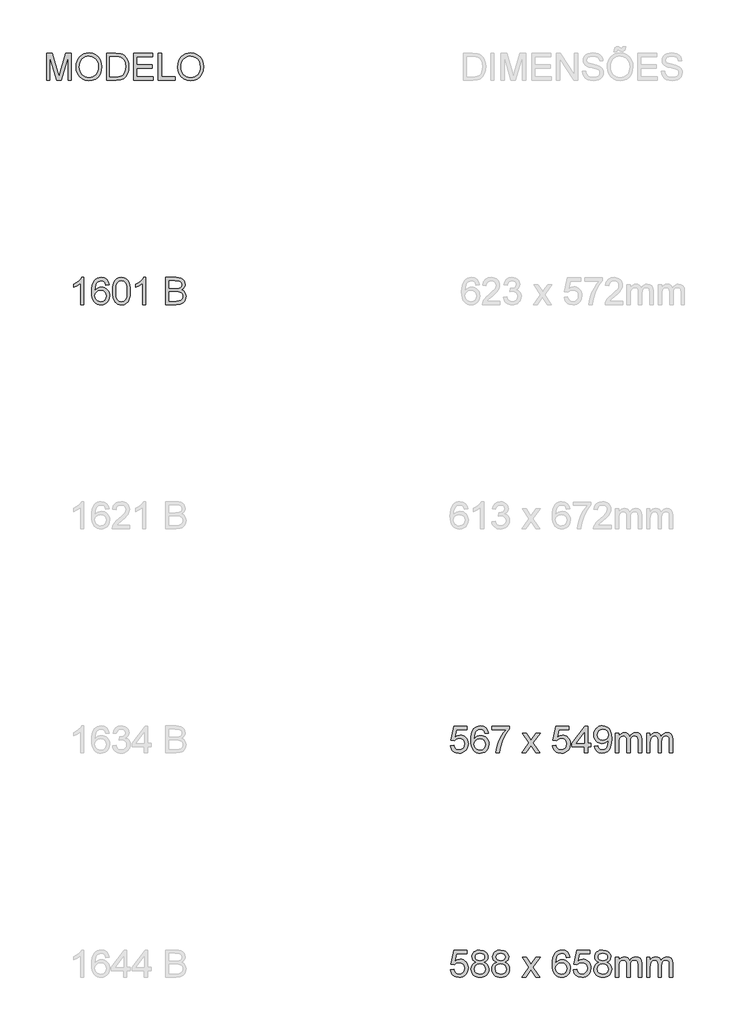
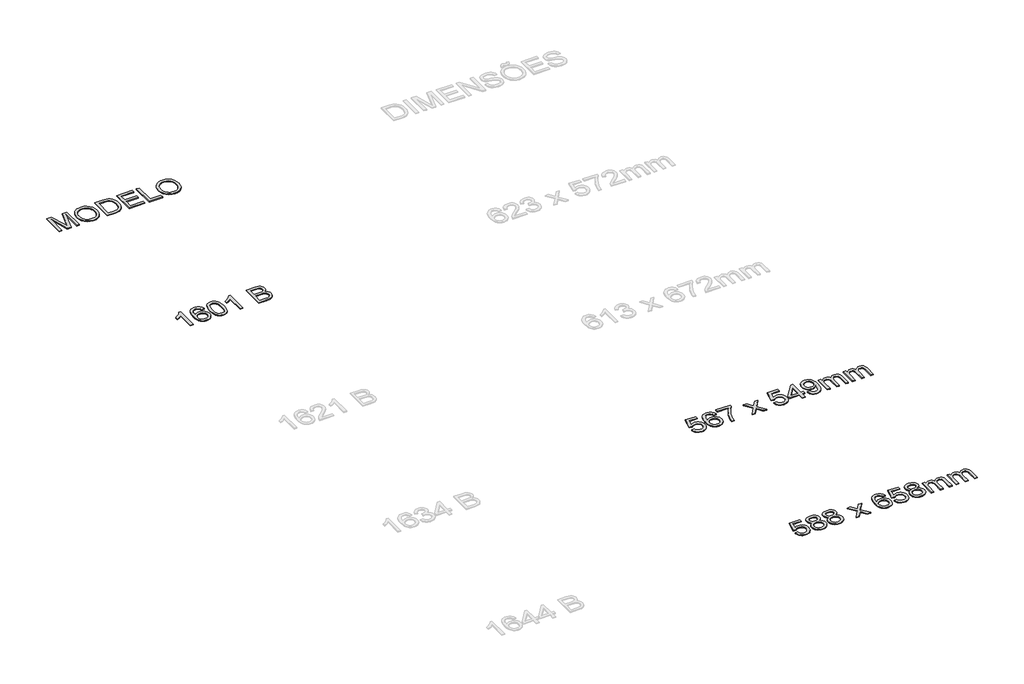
# One storey, part 34 of 39: 4 proxies.
"""IFC4 building model written with IfcOpenShell, lengths in millimetres."""

import ifcopenshell
import ifcopenshell.guid

model = None  # the IFC model being written
_history = None  # IfcOwnerHistory: only IFC2X3 demands one
_inside = {}  # id of a spatial element -> (the spatial element, [elements in it])
_under = {}  # id of a project, library or spatial element -> (it, [spatial elements below it])
_declared = {}  # id of a project -> (the project, [libraries it declares])
_typed = {}  # id of a type object -> (the type object, [elements of that type])
_made_of = {}  # id of a material, layer set ... -> (it, [elements and type objects made of it])


def new_model(schema):
    """Start an empty IFC model of exactly this schema.

    Asked for "IFC4X3", IfcOpenShell would pick the latest addendum, in which some entities
    have other attributes; the version numbers below select the first issue.
    IFC2X3 requires an IfcOwnerHistory on every rooted entity: one is made here for all.
    """
    global model, _history
    if schema == "IFC4X3":
        model = ifcopenshell.file(schema_version=(4, 3, 0, 0))
    else:
        model = ifcopenshell.file(schema=schema)
    _inside.clear()
    _under.clear()
    _declared.clear()
    _typed.clear()
    _made_of.clear()
    _history = None
    if model.schema == "IFC2X3":
        org = make("IfcOrganization", Name="unknown")
        user = make(
            "IfcPersonAndOrganization",
            ThePerson=make("IfcPerson", FamilyName="unknown"),
            TheOrganization=org,
        )
        app = make(
            "IfcApplication",
            ApplicationDeveloper=org,
            Version="unknown",
            ApplicationFullName="unknown",
            ApplicationIdentifier="unknown",
        )
        _history = make(
            "IfcOwnerHistory",
            OwningUser=user,
            OwningApplication=app,
            ChangeAction="ADDED",
            CreationDate=0,
        )
    return model


def make(cls, **values):
    """One entity of the class cls with the attributes given. An attribute that is None is left unset."""
    return model.create_entity(
        cls, **{name: value for name, value in values.items() if value is not None}
    )


def rooted(cls, **values):
    """An entity with a GlobalId (a new one), such as an element, a storey or a relation."""
    return make(cls, GlobalId=ifcopenshell.guid.new(), OwnerHistory=_history, **values)


def si_unit(unit_type, name, prefix=None):
    """IfcSIUnit, for example si_unit("LENGTHUNIT", "METRE", prefix="MILLI")."""
    return make("IfcSIUnit", UnitType=unit_type, Prefix=prefix, Name=name)


def assignment(units):
    """IfcUnitAssignment: the units of a project."""
    return None if units is None else make("IfcUnitAssignment", Units=units)


def point(xyz):
    """IfcCartesianPoint."""
    return None if xyz is None else make("IfcCartesianPoint", Coordinates=xyz)


def direction(xyz):
    """IfcDirection."""
    return None if xyz is None else make("IfcDirection", DirectionRatios=xyz)


def frame(location, z_axis=None, x_axis=None):
    """IfcAxis2Placement3D, a coordinate frame: its origin and axes. An axis left out is left unset."""
    return make(
        "IfcAxis2Placement3D",
        Location=point(location),
        Axis=direction(z_axis),
        RefDirection=direction(x_axis),
    )


def origin():
    """The frame at (0, 0, 0) with its axes left unset."""
    return frame((0.0, 0.0, 0.0))


def origin_with_axes():
    """The frame at (0, 0, 0) with the z axis (0, 0, 1) and the x axis (1, 0, 0) written out."""
    return frame((0.0, 0.0, 0.0), z_axis=(0.0, 0.0, 1.0), x_axis=(1.0, 0.0, 0.0))


def place(relative_to, where):
    """IfcLocalPlacement: puts the frame where relative to a parent placement (None: the world)."""
    return make(
        "IfcLocalPlacement", PlacementRelTo=relative_to, RelativePlacement=where
    )


def context(
    kind, dimensions, precision=None, world=None, true_north=None, identifier=None
):
    """IfcGeometricRepresentationContext, for example the 3D "Model" context."""
    return make(
        "IfcGeometricRepresentationContext",
        ContextIdentifier=identifier,
        ContextType=kind,
        CoordinateSpaceDimension=dimensions,
        Precision=precision,
        WorldCoordinateSystem=world,
        TrueNorth=true_north,
    )


def project(units=None, contexts=None):
    """IfcProject with its units and contexts."""
    return rooted(
        "IfcProject",
        Name="project",
        RepresentationContexts=contexts,
        UnitsInContext=assignment(units),
    )


def spatial(cls, under=None, at=None, **own):
    """A site, building, storey or space (cls), placed at a placement, below another one or the project."""
    s = rooted(cls, ObjectPlacement=at, **own)
    if under is not None:
        _under.setdefault(under.id(), (under, []))[1].append(s)
    return s


def polyline(points):
    """IfcPolyline through the points."""
    return make("IfcPolyline", Points=[point(p) for p in points])


def outline(outer, holes=None, kind="AREA"):
    """IfcArbitraryClosedProfileDef: a profile drawn as a closed curve; with holes, ...WithVoids."""
    if holes is None:
        return make("IfcArbitraryClosedProfileDef", ProfileType=kind, OuterCurve=outer)
    return make(
        "IfcArbitraryProfileDefWithVoids",
        ProfileType=kind,
        OuterCurve=outer,
        InnerCurves=holes,
    )


def extrude(swept, where, along, depth):
    """IfcExtrudedAreaSolid: the profile swept, set in the frame where, extruded along a direction by depth."""
    return make(
        "IfcExtrudedAreaSolid",
        SweptArea=swept,
        Position=where,
        ExtrudedDirection=direction(along),
        Depth=depth,
    )


def shape(context_of_items, identifier, shape_type, items):
    """IfcShapeRepresentation: the items that make up one representation, for example the "Body"."""
    return make(
        "IfcShapeRepresentation",
        ContextOfItems=context_of_items,
        RepresentationIdentifier=identifier,
        RepresentationType=shape_type,
        Items=items,
    )


def made_of(thing, what):
    """Note that an element or type object is made of a material, layer set ...; save() writes the relation."""
    if what is not None:
        _made_of.setdefault(what.id(), (what, []))[1].append(thing)
    return thing


def element(
    cls,
    number,
    at=None,
    inside=None,
    cuts=None,
    type_object=None,
    material=None,
    context=None,
    identifier="Body",
    shape_type=None,
    held_by="IfcProductDefinitionShape",
    body=None,
    shapes=None,
    **own,
):
    """One element of the class cls, such as IfcWall. Its Tag is "e" and its number.

    at: its placement. inside: the storey or other place that contains it. cuts: it is an
    opening in that element (IfcRelVoidsElement). A single representation is given by context,
    identifier, shape_type and body (its items); several are given by shapes. held_by: the class
    of the entity that holds the representations. save() writes the other relations.
    """
    e = rooted(cls, Tag="e%d" % number, ObjectPlacement=at, **own)
    if body is not None:
        shapes = [shape(context, identifier, shape_type, body)]
    if shapes is not None:
        e.Representation = make(held_by, Representations=shapes)
    if inside is not None:
        _inside.setdefault(inside.id(), (inside, []))[1].append(e)
    if cuts is not None:
        rooted(
            "IfcRelVoidsElement", RelatingBuildingElement=cuts, RelatedOpeningElement=e
        )
    if type_object is not None:
        _typed.setdefault(type_object.id(), (type_object, []))[1].append(e)
    return made_of(e, material)


def aggregate(whole, parts):
    """IfcRelAggregates: a whole, such as a stair, and the parts it consists of."""
    return rooted("IfcRelAggregates", RelatingObject=whole, RelatedObjects=parts)


def save(model, path):
    """Write the relations noted so far, then the file.

    IfcRelAggregates (storeys below a building ...), IfcRelContainedInSpatialStructure (elements
    in a storey), IfcRelDefinesByType, IfcRelAssociatesMaterial and IfcRelDeclares: one each for
    every whole, place, type object, material and project.
    """
    for whole, parts in _under.values():
        aggregate(whole, parts)
    for where, things in _inside.values():
        rooted(
            "IfcRelContainedInSpatialStructure",
            RelatedElements=things,
            RelatingStructure=where,
        )
    for kind, things in _typed.values():
        rooted("IfcRelDefinesByType", RelatedObjects=things, RelatingType=kind)
    for what, things in _made_of.values():
        rooted("IfcRelAssociatesMaterial", RelatedObjects=things, RelatingMaterial=what)
    for by, libraries in _declared.values():
        rooted("IfcRelDeclares", RelatingContext=by, RelatedDefinitions=libraries)
    model.write(path)


model = new_model("IFC4")

# Units and contexts
model_context = context("Model", 3, world=origin())
ifc_project = project(units=[si_unit("LENGTHUNIT", "METRE", prefix="MILLI")], contexts=[model_context])

# Site, building, storey
site = spatial("IfcSite", under=ifc_project)
building = spatial("IfcBuilding", under=site)
storey = spatial("IfcBuildingStorey", under=building, Name="Marelli - Linha PROFIT - Planta Baixa", Elevation=0.0)

# Proxies
placement = place(None, origin())
element("IfcBuildingElementProxy", 1, Name="300mm Arial", ObjectType="300mm Arial", at=placement, inside=storey, context=model_context, shape_type="SweptSolid", body=[
    extrude(outline(polyline([(-458.955862, 6799.4848021), (-421.2847457, 6804.1936916), (-414.3685641, 6781.578146), (-402.3020347, 6765.3821411), (-385.1403396, 6755.6424653), (-362.9386612, 6752.3959067), (-335.9361228, 6756.9116582), (-315.702613, 6770.4589127), (-303.0658665, 6791.4741716), (-298.8536177, 6818.3939366), (-302.7991521, 6843.7410061), (-314.6357553, 6863.1283872), (-334.4553977, 6875.43404), (-362.35005, 6879.5359242), (-380.6245881, 6877.8988494), (-395.4226414, 6872.9876247), (-416.5758561, 6855.9914765), (-454.2469724, 6860.7003661), (-421.2847457, 7016.0937208), (-275.30917, 7016.0937208), (-275.30917, 6978.4226045), (-390.8241165, 6978.4226045), (-406.9373478, 6895.4284264), (-380.0267799, 6911.762387), (-351.828625, 6917.2070405), (-333.4828097, 6915.5193819), (-316.6315151, 6910.4564059), (-301.274741, 6902.0181127), (-287.4124876, 6890.2045021), (-275.9368686, 6875.7375426), (-267.7399979, 6859.3392027), (-262.8218755, 6841.0094823), (-261.1825014, 6820.7483814), (-267.0870074, 6783.0772651), (-274.4676399, 6766.283452), (-284.8005254, 6750.8508023), (-300.4539043, 6735.0456721), (-318.7192454, 6723.7562934), (-339.5965486, 6716.9826661), (-363.085814, 6714.7247904), (-400.0855457, 6720.5281289), (-415.7642165, 6727.782302), (-429.5620905, 6737.9381443), (-441.0423081, 6750.4898181), (-449.7680091, 6764.9314857), (-458.955862, 6799.4848021)])), origin_with_axes(), (0.0, 0.0, 1.0), 10.0),
    extrude(outline(polyline([(-35.1558035, 6940.7514882), (-72.8269198, 6936.0425987), (-78.8969727, 6954.7126099), (-87.1007412, 6967.4597211), (-104.1888599, 6979.2135508), (-124.8454339, 6983.1314941), (-142.3566169, 6980.8506257), (-158.8377303, 6974.0080206), (-172.9919901, 6959.5962434), (-184.5526818, 6939.7582068), (-192.3609771, 6911.6980077), (-195.2580478, 6872.6197427), (-180.1472949, 6890.2504873), (-162.0383037, 6902.6757017), (-141.9427497, 6910.0425387), (-120.8723084, 6912.498151), (-102.7725142, 6910.8196894), (-86.0706717, 6905.7843046), (-70.7667807, 6897.3919966), (-56.8608412, 6885.6427654), (-45.3047481, 6871.2355867), (-37.0503958, 6854.8694365), (-32.0977844, 6836.5443146), (-30.446914, 6816.2602211), (-33.5555168, 6789.2852738), (-42.8813254, 6764.2784951), (-57.6517875, 6743.0700981), (-77.094351, 6727.4902956), (-100.326099, 6717.9161667), (-126.4641147, 6714.7247904), (-148.9210113, 6716.8401119), (-169.2028055, 6723.1860763), (-187.3094975, 6733.7626836), (-203.2410871, 6748.5699339), (-216.2296208, 6768.2332266), (-225.5071449, 6793.377961), (-231.0736593, 6824.0041371), (-232.9291641, 6860.1117549), (-230.869025, 6900.5925699), (-224.6886074, 6935.1412878), (-214.3879116, 6963.7579085), (-199.9669374, 6986.442432), (-184.3365511, 7001.4750101), (-166.2137643, 7012.2125658), (-145.598577, 7018.6550992), (-122.4909892, 7020.8026104), (-89.4367919, 7015.4867156), (-62.9676824, 6999.5390311), (-44.4264298, 6974.2103557), (-35.1558035, 6940.7514882)]), holes=[polyline([(-195.2580478, 6816.8488323), (-193.078347, 6800.1561867), (-186.5392445, 6784.2176993), (-176.3857015, 6770.514095), (-163.3626788, 6760.5260988), (-147.6449206, 6754.4284547), (-129.4071707, 6752.3959067), (-104.5475449, 6756.6081555), (-85.0038139, 6769.2449021), (-72.3394762, 6789.1105298), (-68.1180303, 6815.0094223), (-72.2842939, 6839.8690481), (-84.7830847, 6858.8241679), (-104.6579095, 6870.826318), (-130.9522751, 6874.8270347), (-155.7751127, 6870.826318), (-176.5328543, 6858.8241679), (-190.5767494, 6840.3289006), (-195.2580478, 6816.8488323)])]), origin_with_axes(), (0.0, 0.0, 1.0), 10.0),
    extrude(outline(polyline([(2.5153128, 6978.4226045), (2.5153128, 7016.0937208), (200.2886734, 7016.0937208), (200.2886734, 6985.6330916), (172.0997155, 6949.9577352), (144.1866691, 6904.5886881), (119.5661666, 6853.6646229), (101.2548403, 6801.3242121), (92.2785196, 6762.1631737), (87.2753245, 6719.4336799), (49.6042082, 6719.4336799), (53.6785013, 6758.2636245), (64.5770054, 6804.4144208), (82.0054149, 6853.3335291), (105.6694242, 6900.4684098), (133.2973621, 6943.0783418), (162.6175571, 6978.4226045), (2.5153128, 6978.4226045)])), origin_with_axes(), (0.0, 0.0, 1.0), 10.0),
    extrude(outline(polyline([(336.84647, 6719.4336799), (417.3390505, 6830.6811953), (341.5553595, 6940.7514882), (386.8784213, 6940.7514882), (423.4458917, 6887.7764809), (440.5156162, 6862.7605053), (455.3044725, 6883.2147442), (496.9487143, 6940.7514882), (542.2717761, 6940.7514882), (462.6621124, 6830.6811953), (539.3287202, 6719.4336799), (494.0056583, 6719.4336799), (447.8732561, 6786.3146267), (439.4119703, 6798.5283089), (382.1695318, 6719.4336799), (336.84647, 6719.4336799)])), origin_with_axes(), (0.0, 0.0, 1.0), 10.0),
    extrude(outline(polyline([(680.5954063, 6799.4848021), (718.2665226, 6804.1936916), (725.1827041, 6781.578146), (737.2492336, 6765.3821411), (754.4109286, 6755.6424653), (776.612607, 6752.3959067), (803.6151455, 6756.9116582), (823.8486552, 6770.4589127), (836.4854018, 6791.4741716), (840.6976506, 6818.3939366), (836.7521162, 6843.7410061), (824.915513, 6863.1283872), (805.0958705, 6875.43404), (777.2012182, 6879.5359242), (758.9266801, 6877.8988494), (744.1286269, 6872.9876247), (722.9754121, 6855.9914765), (685.3042958, 6860.7003661), (718.2665226, 7016.0937208), (864.2420983, 7016.0937208), (864.2420983, 6978.4226045), (748.7271518, 6978.4226045), (732.6139204, 6895.4284264), (759.5244884, 6911.762387), (787.7226433, 6917.2070405), (806.0684585, 6915.5193819), (822.9197532, 6910.4564059), (838.2765272, 6902.0181127), (852.1387806, 6890.2045021), (863.6143996, 6875.7375426), (871.8112703, 6859.3392027), (876.7293928, 6841.0094823), (878.3687669, 6820.7483814), (872.4642609, 6783.0772651), (865.0836284, 6766.283452), (854.7507428, 6750.8508023), (839.0973639, 6735.0456721), (820.8320229, 6723.7562934), (799.9547196, 6716.9826661), (776.4654542, 6714.7247904), (739.4657226, 6720.5281289), (723.7870518, 6727.782302), (709.9891777, 6737.9381443), (698.5089602, 6750.4898181), (689.7832591, 6764.9314857), (680.5954063, 6799.4848021)])), origin_with_axes(), (0.0, 0.0, 1.0), 10.0),
    extrude(outline(polyline([(1033.7621217, 6719.4336799), (1033.7621217, 6790.067023), (897.2043251, 6790.067023), (897.2043251, 6827.7381393), (1043.1799007, 7016.0937208), (1071.433238, 7016.0937208), (1071.433238, 6827.7381393), (1109.1043543, 6827.7381393), (1109.1043543, 6790.067023), (1071.433238, 6790.067023), (1071.433238, 6719.4336799), (1033.7621217, 6719.4336799)]), holes=[polyline([(1033.7621217, 6827.7381393), (1033.7621217, 6944.1360026), (943.5574565, 6827.7381393), (1033.7621217, 6827.7381393)])]), origin_with_axes(), (0.0, 0.0, 1.0), 10.0),
    extrude(outline(polyline([(1146.7754706, 6794.7759125), (1184.4465869, 6799.4848021), (1190.8845218, 6778.1016611), (1201.3691587, 6763.5427312), (1215.6429801, 6755.1826128), (1233.4484687, 6752.3959067), (1249.4237443, 6754.1893314), (1263.9458861, 6759.5696056), (1276.0124155, 6767.948118), (1284.6208542, 6778.7362576), (1296.944901, 6811.4777551), (1302.3895545, 6855.1821362), (1302.1688253, 6862.5397761), (1289.1182116, 6846.6104857), (1272.0392899, 6833.9921332), (1252.1644652, 6825.7699706), (1230.7261419, 6823.0292498), (1212.8309821, 6824.7031129), (1196.3751606, 6829.7247021), (1181.3586774, 6838.0940175), (1167.7815325, 6849.811059), (1156.5312412, 6864.2642229), (1148.4953189, 6880.8419053), (1143.6737655, 6899.5441062), (1142.066581, 6920.3708257), (1143.7519404, 6941.8919224), (1148.8080186, 6961.2057272), (1157.2348156, 6978.3122399), (1169.0323313, 6993.2114607), (1183.3682328, 7005.2825887), (1199.410187, 7013.904823), (1217.1581941, 7019.0781635), (1236.6122538, 7020.8026104), (1264.7092412, 7016.866273), (1290.2862369, 7005.057261), (1311.6785749, 6985.9641854), (1327.2215892, 6960.1756576), (1336.6853535, 6924.5278922), (1339.8399417, 6875.8571043), (1336.6945506, 6824.2524574), (1327.2583774, 6784.3648521), (1311.6141956, 6754.3916665), (1289.8447785, 6732.530279), (1262.8882253, 6719.1761625), (1231.6826351, 6714.7247904), (1199.4745664, 6719.9763059), (1173.778009, 6735.7308523), (1155.8069736, 6760.9951483), (1146.7754706, 6794.7759125)]), holes=[polyline([(1302.1688253, 6921.2537425), (1298.1037293, 6946.784753), (1285.9084412, 6966.4296515), (1266.9809125, 6978.9560334), (1242.7190949, 6983.1314941), (1217.5559665, 6978.6341367), (1197.3960331, 6965.1420645), (1184.1522813, 6944.4946875), (1179.7376974, 6918.5314157), (1183.913158, 6895.2536825), (1196.4395399, 6876.7768093), (1216.1028326, 6864.7194769), (1241.6890253, 6860.7003661), (1265.7577049, 6864.7194769), (1285.135889, 6876.7768093), (1297.9105913, 6895.9342642), (1302.1688253, 6921.2537425)])]), origin_with_axes(), (0.0, 0.0, 1.0), 10.0),
    extrude(outline(polyline([(1382.2199475, 6719.4336799), (1382.2199475, 6940.7514882), (1419.8910638, 6940.7514882), (1419.8910638, 6904.3311707), (1431.2218293, 6921.0606044), (1445.7899563, 6934.1664005), (1463.0988041, 6942.6368835), (1482.6517322, 6945.4603778), (1503.6026118, 6942.5817012), (1520.3964249, 6933.9456713), (1532.9412009, 6920.1225054), (1541.1449694, 6901.6824203), (1554.8761649, 6920.8352767), (1570.5387408, 6934.5158884), (1588.1326972, 6942.7242554), (1607.6580341, 6945.4603778), (1635.9757507, 6940.9078381), (1656.9174333, 6927.250219), (1669.8576825, 6904.1196386), (1674.1710989, 6871.1482147), (1674.1710989, 6719.4336799), (1636.4999826, 6719.4336799), (1636.4999826, 6854.961407), (1633.0051036, 6886.4153175), (1628.093879, 6895.0881356), (1620.349963, 6901.9031495), (1610.389558, 6906.3177335), (1598.8288663, 6907.7892615), (1578.4206126, 6904.018471), (1561.7831493, 6892.7060997), (1550.7190983, 6873.0795952), (1547.0310813, 6844.3664055), (1547.0310813, 6719.4336799), (1509.359965, 6719.4336799), (1509.359965, 6859.1552617), (1507.1802642, 6880.4556292), (1500.6411617, 6895.6491556), (1489.1356523, 6904.754235), (1472.0567307, 6907.7892615), (1457.543786, 6905.7659105), (1444.1712755, 6899.6958576), (1433.1348156, 6889.7262555), (1425.6300229, 6876.0042571), (1421.3258036, 6856.9663638), (1419.8910638, 6831.0490773), (1419.8910638, 6719.4336799), (1382.2199475, 6719.4336799)])), origin_with_axes(), (0.0, 0.0, 1.0), 10.0),
    extrude(outline(polyline([(1730.6777733, 6719.4336799), (1730.6777733, 6940.7514882), (1768.3488896, 6940.7514882), (1768.3488896, 6904.3311707), (1779.6796551, 6921.0606044), (1794.2477821, 6934.1664005), (1811.55663, 6942.6368835), (1831.109558, 6945.4603778), (1852.0604376, 6942.5817012), (1868.8542507, 6933.9456713), (1881.3990268, 6920.1225054), (1889.6027952, 6901.6824203), (1903.3339907, 6920.8352767), (1918.9965667, 6934.5158884), (1936.5905231, 6942.7242554), (1956.11586, 6945.4603778), (1984.4335766, 6940.9078381), (2005.3752591, 6927.250219), (2018.3155083, 6904.1196386), (2022.6289247, 6871.1482147), (2022.6289247, 6719.4336799), (1984.9578084, 6719.4336799), (1984.9578084, 6854.961407), (1981.4629294, 6886.4153175), (1976.5517048, 6895.0881356), (1968.8077888, 6901.9031495), (1958.8473838, 6906.3177335), (1947.2866921, 6907.7892615), (1926.8784384, 6904.018471), (1910.2409752, 6892.7060997), (1899.1769242, 6873.0795952), (1895.4889072, 6844.3664055), (1895.4889072, 6719.4336799), (1857.8177909, 6719.4336799), (1857.8177909, 6859.1552617), (1855.63809, 6880.4556292), (1849.0989876, 6895.6491556), (1837.5934782, 6904.754235), (1820.5145566, 6907.7892615), (1806.0016118, 6905.7659105), (1792.6291013, 6899.6958576), (1781.5926415, 6889.7262555), (1774.0878488, 6876.0042571), (1769.7836294, 6856.9663638), (1768.3488896, 6831.0490773), (1768.3488896, 6719.4336799), (1730.6777733, 6719.4336799)])), origin_with_axes(), (0.0, 0.0, 1.0), 10.0),
])
element("IfcBuildingElementProxy", 2, Name="300mm Arial", ObjectType="300mm Arial", at=placement, inside=storey, context=model_context, shape_type="SweptSolid", body=[
    extrude(outline(polyline([(-458.955862, 4299.4848021), (-421.2847457, 4304.1936916), (-414.3685641, 4281.578146), (-402.3020347, 4265.3821411), (-385.1403396, 4255.6424653), (-362.9386612, 4252.3959067), (-335.9361228, 4256.9116582), (-315.702613, 4270.4589127), (-303.0658665, 4291.4741716), (-298.8536177, 4318.3939366), (-302.7991521, 4343.7410061), (-314.6357553, 4363.1283872), (-334.4553977, 4375.43404), (-362.35005, 4379.5359242), (-380.6245881, 4377.8988494), (-395.4226414, 4372.9876247), (-416.5758561, 4355.9914765), (-454.2469724, 4360.7003661), (-421.2847457, 4516.0937208), (-275.30917, 4516.0937208), (-275.30917, 4478.4226045), (-390.8241165, 4478.4226045), (-406.9373478, 4395.4284264), (-380.0267799, 4411.762387), (-351.828625, 4417.2070405), (-333.4828097, 4415.5193819), (-316.6315151, 4410.4564059), (-301.274741, 4402.0181127), (-287.4124876, 4390.2045021), (-275.9368686, 4375.7375426), (-267.7399979, 4359.3392027), (-262.8218755, 4341.0094823), (-261.1825014, 4320.7483814), (-267.0870074, 4283.0772651), (-274.4676399, 4266.283452), (-284.8005254, 4250.8508023), (-300.4539043, 4235.0456721), (-318.7192454, 4223.7562934), (-339.5965486, 4216.9826661), (-363.085814, 4214.7247904), (-400.0855457, 4220.5281289), (-415.7642165, 4227.782302), (-429.5620905, 4237.9381443), (-441.0423081, 4250.4898181), (-449.7680091, 4264.9314857), (-458.955862, 4299.4848021)])), origin_with_axes(), (0.0, 0.0, 1.0), 10.0),
    extrude(outline(polyline([(-173.3322809, 4385.4220362), (-193.5014113, 4395.35485), (-207.6556711, 4408.819331), (-216.0157894, 4425.5395677), (-218.8024955, 4445.2396486), (-217.2849823, 4460.6033204), (-212.7324426, 4474.6886023), (-205.1448764, 4487.4954942), (-194.5222838, 4499.0239963), (-181.375101, 4508.5521399), (-166.2137643, 4515.3579569), (-129.8486291, 4520.8026104), (-93.2627647, 4515.2291982), (-77.935881, 4508.2624329), (-64.5863631, 4498.5089615), (-53.7706325, 4486.7551317), (-46.0451106, 4473.7872914), (-41.4097974, 4459.6054405), (-39.8646931, 4444.209579), (-42.614611, 4425.1440946), (-50.8643647, 4408.7089665), (-64.7059248, 4395.3272589), (-84.2312617, 4385.4220362), (-61.0454989, 4373.4750684), (-44.1689124, 4355.8811119), (-33.8774136, 4333.4862955), (-30.446914, 4307.1367476), (-32.1483682, 4288.3471747), (-37.2527309, 4271.1211003), (-45.760002, 4255.4585243), (-57.6701816, 4241.3594468), (-72.3578703, 4229.7067846), (-89.1976686, 4221.3834545), (-108.1895766, 4216.3894564), (-129.3335943, 4214.7247904), (-150.477612, 4216.3963542), (-169.46952, 4221.4110457), (-186.3093183, 4229.7688647), (-200.9970069, 4241.4698114), (-212.9071865, 4255.6677572), (-221.4144577, 4271.5165734), (-226.5188204, 4289.0162601), (-228.2202746, 4308.1668172), (-224.6518192, 4335.5372376), (-213.9464532, 4358.0516157), (-196.6559994, 4374.9373993), (-173.3322809, 4385.4220362)]), holes=[polyline([(-181.1313792, 4444.1360026), (-177.7928501, 4427.6916774), (-167.7772628, 4414.5582902), (-151.3789228, 4405.9498515), (-128.8921359, 4403.0803719), (-106.9295808, 4405.9314574), (-90.7795612, 4414.4847138), (-80.8467473, 4427.1766426), (-77.5358094, 4442.4437454), (-80.9571119, 4458.2902624), (-91.2210196, 4471.3960584), (-107.5917684, 4480.1976352), (-129.3335943, 4483.1314941), (-151.2133759, 4480.2620145), (-167.5565336, 4471.6535758), (-177.7376678, 4459.0352234), (-181.1313792, 4444.1360026)]), polyline([(-190.5491583, 4309.4911924), (-184.2583762, 4281.1274905), (-175.5487699, 4268.9597935), (-162.0015155, 4259.9006994), (-145.7779195, 4254.2721049), (-129.0392887, 4252.3959067), (-103.3979136, 4256.3414411), (-84.1576853, 4268.1780443), (-72.127944, 4286.1030945), (-68.1180303, 4308.31397), (-72.2567027, 4330.9019245), (-84.6727201, 4349.2224478), (-104.3544068, 4361.3625537), (-130.2900875, 4365.4092556), (-155.5727776, 4361.417736), (-174.6198679, 4349.443177), (-186.5668357, 4331.4721416), (-190.5491583, 4309.4911924)])]), origin_with_axes(), (0.0, 0.0, 1.0), 10.0),
    extrude(outline(polyline([(57.4033065, 4385.4220362), (37.2341761, 4395.35485), (23.0799163, 4408.819331), (14.719798, 4425.5395677), (11.9330919, 4445.2396486), (13.4506051, 4460.6033204), (18.0031448, 4474.6886023), (25.5907109, 4487.4954942), (36.2133035, 4499.0239963), (49.3604863, 4508.5521399), (64.5218231, 4515.3579569), (100.8869583, 4520.8026104), (137.4728227, 4515.2291982), (152.7997063, 4508.2624329), (166.1492242, 4498.5089615), (176.9649549, 4486.7551317), (184.6904768, 4473.7872914), (189.3257899, 4459.6054405), (190.8708943, 4444.209579), (188.1209764, 4425.1440946), (179.8712227, 4408.7089665), (166.0296626, 4395.3272589), (146.5043257, 4385.4220362), (169.6900884, 4373.4750684), (186.566675, 4355.8811119), (196.8581738, 4333.4862955), (200.2886734, 4307.1367476), (198.5872192, 4288.3471747), (193.4828565, 4271.1211003), (184.9755853, 4255.4585243), (173.0654058, 4241.3594468), (158.3777171, 4229.7067846), (141.5379188, 4221.3834545), (122.5460108, 4216.3894564), (101.4019931, 4214.7247904), (80.2579754, 4216.3963542), (61.2660674, 4221.4110457), (44.4262691, 4229.7688647), (29.7385804, 4241.4698114), (17.8284008, 4255.6677572), (9.3211297, 4271.5165734), (4.216767, 4289.0162601), (2.5153128, 4308.1668172), (6.0837681, 4335.5372376), (16.7891342, 4358.0516157), (34.079588, 4374.9373993), (57.4033065, 4385.4220362)]), holes=[polyline([(49.6042082, 4444.1360026), (52.9427373, 4427.6916774), (62.9583246, 4414.5582902), (79.3566645, 4405.9498515), (101.8434515, 4403.0803719), (123.8060066, 4405.9314574), (139.9560262, 4414.4847138), (149.8888401, 4427.1766426), (153.199778, 4442.4437454), (149.7784755, 4458.2902624), (139.5145678, 4471.3960584), (123.143819, 4480.1976352), (101.4019931, 4483.1314941), (79.5222114, 4480.2620145), (63.1790538, 4471.6535758), (52.9979196, 4459.0352234), (49.6042082, 4444.1360026)]), polyline([(40.1864291, 4309.4911924), (46.4772112, 4281.1274905), (55.1868174, 4268.9597935), (68.7340719, 4259.9006994), (84.9576679, 4254.2721049), (101.6962987, 4252.3959067), (127.3376738, 4256.3414411), (146.5779021, 4268.1780443), (158.6076433, 4286.1030945), (162.6175571, 4308.31397), (158.4788846, 4330.9019245), (146.0628673, 4349.2224478), (126.3811806, 4361.3625537), (100.4454999, 4365.4092556), (75.1628098, 4361.417736), (56.1157195, 4349.443177), (44.1687517, 4331.4721416), (40.1864291, 4309.4911924)])]), origin_with_axes(), (0.0, 0.0, 1.0), 10.0),
    extrude(outline(polyline([(336.84647, 4219.4336799), (417.3390505, 4330.6811953), (341.5553595, 4440.7514882), (386.8784213, 4440.7514882), (423.4458917, 4387.7764809), (440.5156162, 4362.7605053), (455.3044725, 4383.2147442), (496.9487143, 4440.7514882), (542.2717761, 4440.7514882), (462.6621124, 4330.6811953), (539.3287202, 4219.4336799), (494.0056583, 4219.4336799), (447.8732561, 4286.3146267), (439.4119703, 4298.5283089), (382.1695318, 4219.4336799), (336.84647, 4219.4336799)])), origin_with_axes(), (0.0, 0.0, 1.0), 10.0),
    extrude(outline(polyline([(873.6598774, 4440.7514882), (835.9887611, 4436.0425987), (829.9187081, 4454.7126099), (821.7149396, 4467.4597211), (804.626821, 4479.2135508), (783.9702469, 4483.1314941), (766.459064, 4480.8506257), (749.9779506, 4474.0080206), (735.8236908, 4459.5962434), (724.2629991, 4439.7582068), (716.4547038, 4411.6980077), (713.5576331, 4372.6197427), (728.668386, 4390.2504873), (746.7773772, 4402.6757017), (766.8729312, 4410.0425387), (787.9433725, 4412.498151), (806.0431667, 4410.8196894), (822.7450092, 4405.7843046), (838.0489002, 4397.3919966), (851.9548397, 4385.6427654), (863.5109328, 4371.2355867), (871.7652851, 4354.8694365), (876.7178965, 4336.5443146), (878.3687669, 4316.2602211), (875.260164, 4289.2852738), (865.9343555, 4264.2784951), (851.1638934, 4243.0700981), (831.7213299, 4227.4902956), (808.4895819, 4217.9161667), (782.3515662, 4214.7247904), (759.8946696, 4216.8401119), (739.6128754, 4223.1860763), (721.5061834, 4233.7626836), (705.5745938, 4248.5699339), (692.5860601, 4268.2332266), (683.308536, 4293.377961), (677.7420216, 4324.0041371), (675.8865168, 4360.1117549), (677.9466559, 4400.5925699), (684.1270735, 4435.1412878), (694.4277693, 4463.7579085), (708.8487435, 4486.442432), (724.4791298, 4501.4750101), (742.6019166, 4512.2125658), (763.2171039, 4518.6550992), (786.3246917, 4520.8026104), (819.378889, 4515.4867156), (845.8479985, 4499.5390311), (864.3892511, 4474.2103557), (873.6598774, 4440.7514882)]), holes=[polyline([(713.5576331, 4316.8488323), (715.7373339, 4300.1561867), (722.2764364, 4284.2176993), (732.4299794, 4270.514095), (745.453002, 4260.5260988), (761.1707603, 4254.4284547), (779.4085102, 4252.3959067), (804.268136, 4256.6081555), (823.811867, 4269.2449021), (836.4762047, 4289.1105298), (840.6976506, 4315.0094223), (836.531387, 4339.8690481), (824.0325962, 4358.8241679), (804.1577714, 4370.826318), (777.8634058, 4374.8270347), (753.0405682, 4370.826318), (732.2828266, 4358.8241679), (718.2389315, 4340.3289006), (713.5576331, 4316.8488323)])]), origin_with_axes(), (0.0, 0.0, 1.0), 10.0),
    extrude(outline(polyline([(911.3309937, 4299.4848021), (949.00211, 4304.1936916), (955.9182915, 4281.578146), (967.9848209, 4265.3821411), (985.146516, 4255.6424653), (1007.3481944, 4252.3959067), (1034.3507329, 4256.9116582), (1054.5842426, 4270.4589127), (1067.2209891, 4291.4741716), (1071.433238, 4318.3939366), (1067.4877036, 4343.7410061), (1055.6511004, 4363.1283872), (1035.8314579, 4375.43404), (1007.9368056, 4379.5359242), (989.6622675, 4377.8988494), (974.8642142, 4372.9876247), (953.7109995, 4355.9914765), (916.0398832, 4360.7003661), (949.00211, 4516.0937208), (1094.9776857, 4516.0937208), (1094.9776857, 4478.4226045), (979.4627392, 4478.4226045), (963.3495078, 4395.4284264), (990.2600757, 4411.762387), (1018.4582307, 4417.2070405), (1036.8040459, 4415.5193819), (1053.6553406, 4410.4564059), (1069.0121146, 4402.0181127), (1082.874368, 4390.2045021), (1094.349987, 4375.7375426), (1102.5468577, 4359.3392027), (1107.4649801, 4341.0094823), (1109.1043543, 4320.7483814), (1103.1998483, 4283.0772651), (1095.8192157, 4266.283452), (1085.4863302, 4250.8508023), (1069.8329513, 4235.0456721), (1051.5676102, 4223.7562934), (1030.690307, 4216.9826661), (1007.2010416, 4214.7247904), (970.20131, 4220.5281289), (954.5226392, 4227.782302), (940.7247651, 4237.9381443), (929.2445476, 4250.4898181), (920.5188465, 4264.9314857), (911.3309937, 4299.4848021)])), origin_with_axes(), (0.0, 0.0, 1.0), 10.0),
    extrude(outline(polyline([(1196.9545747, 4385.4220362), (1176.7854443, 4395.35485), (1162.6311846, 4408.819331), (1154.2710662, 4425.5395677), (1151.4843601, 4445.2396486), (1153.0018734, 4460.6033204), (1157.554413, 4474.6886023), (1165.1419792, 4487.4954942), (1175.7645718, 4499.0239963), (1188.9117546, 4508.5521399), (1204.0730913, 4515.3579569), (1240.4382266, 4520.8026104), (1277.024091, 4515.2291982), (1292.3509746, 4508.2624329), (1305.7004925, 4498.5089615), (1316.5162232, 4486.7551317), (1324.2417451, 4473.7872914), (1328.8770582, 4459.6054405), (1330.4221626, 4444.209579), (1327.6722447, 4425.1440946), (1319.4224909, 4408.7089665), (1305.5809309, 4395.3272589), (1286.055594, 4385.4220362), (1309.2413567, 4373.4750684), (1326.1179432, 4355.8811119), (1336.4094421, 4333.4862955), (1339.8399417, 4307.1367476), (1338.1384874, 4288.3471747), (1333.0341247, 4271.1211003), (1324.5268536, 4255.4585243), (1312.616674, 4241.3594468), (1297.9289854, 4229.7067846), (1281.089187, 4221.3834545), (1262.097279, 4216.3894564), (1240.9532614, 4214.7247904), (1219.8092437, 4216.3963542), (1200.8173357, 4221.4110457), (1183.9775373, 4229.7688647), (1169.2898487, 4241.4698114), (1157.3796691, 4255.6677572), (1148.872398, 4271.5165734), (1143.7680353, 4289.0162601), (1142.066581, 4308.1668172), (1145.6350364, 4335.5372376), (1156.3404025, 4358.0516157), (1173.6308562, 4374.9373993), (1196.9545747, 4385.4220362)]), holes=[polyline([(1189.1554764, 4444.1360026), (1192.4940055, 4427.6916774), (1202.5095929, 4414.5582902), (1218.9079328, 4405.9498515), (1241.3947197, 4403.0803719), (1263.3572749, 4405.9314574), (1279.5072944, 4414.4847138), (1289.4401083, 4427.1766426), (1292.7510463, 4442.4437454), (1289.3297437, 4458.2902624), (1279.0658361, 4471.3960584), (1262.6950873, 4480.1976352), (1240.9532614, 4483.1314941), (1219.0734797, 4480.2620145), (1202.7303221, 4471.6535758), (1192.5491878, 4459.0352234), (1189.1554764, 4444.1360026)]), polyline([(1179.7376974, 4309.4911924), (1186.0284795, 4281.1274905), (1194.7380857, 4268.9597935), (1208.2853402, 4259.9006994), (1224.5089362, 4254.2721049), (1241.2475669, 4252.3959067), (1266.888942, 4256.3414411), (1286.1291704, 4268.1780443), (1298.1589116, 4286.1030945), (1302.1688253, 4308.31397), (1298.0301529, 4330.9019245), (1285.6141356, 4349.2224478), (1265.9324488, 4361.3625537), (1239.9967682, 4365.4092556), (1214.714078, 4361.417736), (1195.6669877, 4349.443177), (1183.72002, 4331.4721416), (1179.7376974, 4309.4911924)])]), origin_with_axes(), (0.0, 0.0, 1.0), 10.0),
    extrude(outline(polyline([(1382.2199475, 4219.4336799), (1382.2199475, 4440.7514882), (1419.8910638, 4440.7514882), (1419.8910638, 4404.3311707), (1431.2218293, 4421.0606044), (1445.7899563, 4434.1664005), (1463.0988041, 4442.6368835), (1482.6517322, 4445.4603778), (1503.6026118, 4442.5817012), (1520.3964249, 4433.9456713), (1532.9412009, 4420.1225054), (1541.1449694, 4401.6824203), (1554.8761649, 4420.8352767), (1570.5387408, 4434.5158884), (1588.1326972, 4442.7242554), (1607.6580341, 4445.4603778), (1635.9757507, 4440.9078381), (1656.9174333, 4427.250219), (1669.8576825, 4404.1196386), (1674.1710989, 4371.1482147), (1674.1710989, 4219.4336799), (1636.4999826, 4219.4336799), (1636.4999826, 4354.961407), (1633.0051036, 4386.4153175), (1628.093879, 4395.0881356), (1620.349963, 4401.9031495), (1610.389558, 4406.3177335), (1598.8288663, 4407.7892615), (1578.4206126, 4404.018471), (1561.7831493, 4392.7060997), (1550.7190983, 4373.0795952), (1547.0310813, 4344.3664055), (1547.0310813, 4219.4336799), (1509.359965, 4219.4336799), (1509.359965, 4359.1552617), (1507.1802642, 4380.4556292), (1500.6411617, 4395.6491556), (1489.1356523, 4404.754235), (1472.0567307, 4407.7892615), (1457.543786, 4405.7659105), (1444.1712755, 4399.6958576), (1433.1348156, 4389.7262555), (1425.6300229, 4376.0042571), (1421.3258036, 4356.9663638), (1419.8910638, 4331.0490773), (1419.8910638, 4219.4336799), (1382.2199475, 4219.4336799)])), origin_with_axes(), (0.0, 0.0, 1.0), 10.0),
    extrude(outline(polyline([(1730.6777733, 4219.4336799), (1730.6777733, 4440.7514882), (1768.3488896, 4440.7514882), (1768.3488896, 4404.3311707), (1779.6796551, 4421.0606044), (1794.2477821, 4434.1664005), (1811.55663, 4442.6368835), (1831.109558, 4445.4603778), (1852.0604376, 4442.5817012), (1868.8542507, 4433.9456713), (1881.3990268, 4420.1225054), (1889.6027952, 4401.6824203), (1903.3339907, 4420.8352767), (1918.9965667, 4434.5158884), (1936.5905231, 4442.7242554), (1956.11586, 4445.4603778), (1984.4335766, 4440.9078381), (2005.3752591, 4427.250219), (2018.3155083, 4404.1196386), (2022.6289247, 4371.1482147), (2022.6289247, 4219.4336799), (1984.9578084, 4219.4336799), (1984.9578084, 4354.961407), (1981.4629294, 4386.4153175), (1976.5517048, 4395.0881356), (1968.8077888, 4401.9031495), (1958.8473838, 4406.3177335), (1947.2866921, 4407.7892615), (1926.8784384, 4404.018471), (1910.2409752, 4392.7060997), (1899.1769242, 4373.0795952), (1895.4889072, 4344.3664055), (1895.4889072, 4219.4336799), (1857.8177909, 4219.4336799), (1857.8177909, 4359.1552617), (1855.63809, 4380.4556292), (1849.0989876, 4395.6491556), (1837.5934782, 4404.754235), (1820.5145566, 4407.7892615), (1806.0016118, 4405.7659105), (1792.6291013, 4399.6958576), (1781.5926415, 4389.7262555), (1774.0878488, 4376.0042571), (1769.7836294, 4356.9663638), (1768.3488896, 4331.0490773), (1768.3488896, 4219.4336799), (1730.6777733, 4219.4336799)])), origin_with_axes(), (0.0, 0.0, 1.0), 10.0),
])
element("IfcBuildingElementProxy", 3, Name="300mm Arial", ObjectType="300mm Arial", at=placement, inside=storey, context=model_context, shape_type="SweptSolid", body=[
    extrude(outline(polyline([(-4966.8769052, 14219.4336799), (-4966.8769052, 14520.8026104), (-4902.0560977, 14520.8026104), (-4840.3990753, 14308.3875464), (-4827.9646638, 14264.0209777), (-4814.5001828, 14312.0663663), (-4753.87323, 14520.8026104), (-4689.0524225, 14520.8026104), (-4689.0524225, 14219.4336799), (-4726.7235388, 14219.4336799), (-4726.7235388, 14483.1314941), (-4802.4336534, 14219.4336799), (-4853.4956743, 14219.4336799), (-4929.2057889, 14483.1314941), (-4929.2057889, 14219.4336799), (-4966.8769052, 14219.4336799)])), origin_with_axes(), (0.0, 0.0, 1.0), 10.0),
    extrude(outline(polyline([(-4637.2546375, 14366.1450196), (-4634.7438429, 14401.4938808), (-4627.2114591, 14432.786843), (-4614.657486, 14460.0239063), (-4597.0819237, 14483.2050705), (-4575.5378343, 14501.7141334), (-4551.0782802, 14514.9348926), (-4523.7032612, 14522.8673481), (-4493.4127774, 14525.5114999), (-4453.883857, 14520.545093), (-4418.4384268, 14505.6458722), (-4389.0078672, 14481.8623012), (-4367.5235587, 14450.2428437), (-4354.3901714, 14412.31421), (-4350.0123757, 14369.6031104), (-4354.6200977, 14326.3217936), (-4368.4432637, 14287.859731), (-4390.7185185, 14256.1850913), (-4420.682507, 14233.266043), (-4455.8244346, 14219.3601035), (-4493.6335066, 14214.7247904), (-4533.7694323, 14219.8475472), (-4569.4171976, 14235.2158175), (-4598.7741808, 14259.4408469), (-4620.0377602, 14291.1338808), (-4632.9504182, 14327.6001836), (-4637.2546375, 14366.1450196)]), holes=[polyline([(-4599.5835212, 14365.7771376), (-4597.7004253, 14340.8025487), (-4592.0511374, 14318.6330599), (-4582.6356576, 14299.2686714), (-4569.4539858, 14282.7093831), (-4553.4304257, 14269.4472372), (-4535.4892806, 14259.9742758), (-4515.6305507, 14254.290499), (-4493.8542358, 14252.3959067), (-4471.7054404, 14254.3088931), (-4451.6121857, 14260.0478522), (-4433.5744716, 14269.6127841), (-4417.5922982, 14283.0036887), (-4404.5071955, 14299.9124649), (-4395.1606936, 14320.0310115), (-4389.5527924, 14343.3593285), (-4387.683492, 14369.897416), (-4390.8840654, 14403.2459188), (-4400.4857854, 14432.0694731), (-4416.2403319, 14455.641512), (-4437.8993843, 14473.2354684), (-4464.0282031, 14484.1891548), (-4493.1920482, 14487.8403836), (-4514.2119057, 14486.0814478), (-4533.71425, 14480.8046405), (-4551.699081, 14472.0099615), (-4568.1663988, 14459.697411), (-4581.9113899, 14443.2737792), (-4591.7292406, 14422.1458563), (-4597.6199511, 14396.3136425), (-4599.5835212, 14365.7771376)])]), origin_with_axes(), (0.0, 0.0, 1.0), 10.0),
    extrude(outline(polyline([(-4298.2145908, 14219.4336799), (-4298.2145908, 14520.8026104), (-4194.2511389, 14520.8026104), (-4140.4667912, 14516.4616028), (-4116.444097, 14508.0922874), (-4096.173799, 14494.9037179), (-4075.333284, 14471.9478814), (-4060.4892455, 14443.4002386), (-4051.6048953, 14409.8126124), (-4048.6434453, 14371.7368259), (-4050.6484021, 14339.3908015), (-4056.6632727, 14310.9259321), (-4065.8235344, 14286.6917057), (-4077.2646645, 14267.0376101), (-4090.4348399, 14251.522187), (-4104.7822377, 14239.7039779), (-4121.254154, 14230.9391893), (-4140.797885, 14224.5840279), (-4189.2479438, 14219.4336799), (-4298.2145908, 14219.4336799)]), holes=[polyline([(-4260.5434745, 14257.1047962), (-4193.8832569, 14257.1047962), (-4166.3105014, 14258.4659596), (-4145.39641, 14262.5494498), (-4129.6142724, 14269.1161434), (-4117.4373783, 14277.9269172), (-4104.3499764, 14294.2332866), (-4094.5183301, 14315.3405161), (-4088.3655037, 14341.3405761), (-4086.3145616, 14372.3254371), (-4090.3336724, 14413.3810678), (-4102.3910047, 14443.6945442), (-4120.2056904, 14464.5166651), (-4141.4968608, 14477.0982294), (-4163.1651104, 14481.6231779), (-4194.9133265, 14483.1314941), (-4260.5434745, 14483.1314941), (-4260.5434745, 14257.1047962)])]), origin_with_axes(), (0.0, 0.0, 1.0), 10.0),
    extrude(outline(polyline([(-3996.8456603, 14219.4336799), (-3996.8456603, 14520.8026104), (-3780.2367416, 14520.8026104), (-3780.2367416, 14483.1314941), (-3959.174544, 14483.1314941), (-3959.174544, 14393.6625928), (-3789.6545206, 14393.6625928), (-3789.6545206, 14355.9914765), (-3959.174544, 14355.9914765), (-3959.174544, 14257.1047962), (-3775.527852, 14257.1047962), (-3775.527852, 14219.4336799), (-3996.8456603, 14219.4336799)])), origin_with_axes(), (0.0, 0.0, 1.0), 10.0),
    extrude(outline(polyline([(-3719.0211776, 14219.4336799), (-3719.0211776, 14520.8026104), (-3681.3500613, 14520.8026104), (-3681.3500613, 14257.1047962), (-3530.665596, 14257.1047962), (-3530.665596, 14219.4336799), (-3719.0211776, 14219.4336799)])), origin_with_axes(), (0.0, 0.0, 1.0), 10.0),
    extrude(outline(polyline([(-3502.4122588, 14366.1450196), (-3499.9014642, 14401.4938808), (-3492.3690803, 14432.786843), (-3479.8151073, 14460.0239063), (-3462.2395449, 14483.2050705), (-3440.6954556, 14501.7141334), (-3416.2359014, 14514.9348926), (-3388.8608825, 14522.8673481), (-3358.5703987, 14525.5114999), (-3319.0414783, 14520.545093), (-3283.5960481, 14505.6458722), (-3254.1654885, 14481.8623012), (-3232.6811799, 14450.2428437), (-3219.5477927, 14412.31421), (-3215.169997, 14369.6031104), (-3219.777719, 14326.3217936), (-3233.6008849, 14287.859731), (-3255.8761397, 14256.1850913), (-3285.8401283, 14233.266043), (-3320.9820558, 14219.3601035), (-3358.7911279, 14214.7247904), (-3398.9270536, 14219.8475472), (-3434.5748189, 14235.2158175), (-3463.9318021, 14259.4408469), (-3485.1953814, 14291.1338808), (-3498.1080395, 14327.6001836), (-3502.4122588, 14366.1450196)]), holes=[polyline([(-3464.7411425, 14365.7771376), (-3462.8580465, 14340.8025487), (-3457.2087587, 14318.6330599), (-3447.7932788, 14299.2686714), (-3434.6116071, 14282.7093831), (-3418.5880469, 14269.4472372), (-3400.6469019, 14259.9742758), (-3380.7881719, 14254.290499), (-3359.0118571, 14252.3959067), (-3336.8630617, 14254.3088931), (-3316.769807, 14260.0478522), (-3298.7320929, 14269.6127841), (-3282.7499195, 14283.0036887), (-3269.6648168, 14299.9124649), (-3260.3183148, 14320.0310115), (-3254.7104137, 14343.3593285), (-3252.8411133, 14369.897416), (-3256.0416866, 14403.2459188), (-3265.6434067, 14432.0694731), (-3281.3979532, 14455.641512), (-3303.0570056, 14473.2354684), (-3329.1858243, 14484.1891548), (-3358.3496695, 14487.8403836), (-3379.369527, 14486.0814478), (-3398.8718713, 14480.8046405), (-3416.8567023, 14472.0099615), (-3433.3240201, 14459.697411), (-3447.0690112, 14443.2737792), (-3456.8868619, 14422.1458563), (-3462.7775724, 14396.3136425), (-3464.7411425, 14365.7771376)])]), origin_with_axes(), (0.0, 0.0, 1.0), 10.0),
])
element("IfcBuildingElementProxy", 4, Name="300mm Arial", ObjectType="300mm Arial", at=placement, inside=storey, context=model_context, shape_type="SweptSolid", body=[
    extrude(outline(polyline([(-4550.1401811, 11719.4336799), (-4587.8112974, 11719.4336799), (-4587.8112974, 11954.2895457), (-4623.4958509, 11928.8688998), (-4663.15353, 11909.8494006), (-4663.15353, 11945.4603778), (-4633.5666205, 11961.5552151), (-4607.9344425, 11980.7034729), (-4587.7285239, 12001.0657413), (-4574.4203928, 12020.8026104), (-4550.1401811, 12020.8026104), (-4550.1401811, 11719.4336799)])), origin_with_axes(), (0.0, 0.0, 1.0), 10.0),
    extrude(outline(polyline([(-4267.6068088, 11940.7514882), (-4305.2779251, 11936.0425987), (-4311.347978, 11954.7126099), (-4319.5517465, 11967.4597211), (-4336.6398652, 11979.2135508), (-4357.2964392, 11983.1314941), (-4374.8076222, 11980.8506257), (-4391.2887356, 11974.0080206), (-4405.4429953, 11959.5962434), (-4417.003687, 11939.7582068), (-4424.8119824, 11911.6980077), (-4427.7090531, 11872.6197427), (-4412.5983001, 11890.2504873), (-4394.4893089, 11902.6757017), (-4374.3937549, 11910.0425387), (-4353.3233137, 11912.498151), (-4335.2235195, 11910.8196894), (-4318.5216769, 11905.7843046), (-4303.2177859, 11897.3919966), (-4289.3118465, 11885.6427654), (-4277.7557533, 11871.2355867), (-4269.5014011, 11854.8694365), (-4264.5487897, 11836.5443146), (-4262.8979192, 11816.2602211), (-4266.0065221, 11789.2852738), (-4275.3323307, 11764.2784951), (-4290.1027928, 11743.0700981), (-4309.5453562, 11727.4902956), (-4332.7771042, 11717.9161667), (-4358.91512, 11714.7247904), (-4381.3720165, 11716.8401119), (-4401.6538108, 11723.1860763), (-4419.7605027, 11733.7626836), (-4435.6920924, 11748.5699339), (-4448.6806261, 11768.2332266), (-4457.9581501, 11793.377961), (-4463.5246646, 11824.0041371), (-4465.3801694, 11860.1117549), (-4463.3200302, 11900.5925699), (-4457.1396127, 11935.1412878), (-4446.8389168, 11963.7579085), (-4432.4179426, 11986.442432), (-4416.7875563, 12001.4750101), (-4398.6647696, 12012.2125658), (-4378.0495823, 12018.6550992), (-4354.9419944, 12020.8026104), (-4321.8877972, 12015.4867156), (-4295.4186876, 11999.5390311), (-4276.8774351, 11974.2103557), (-4267.6068088, 11940.7514882)]), holes=[polyline([(-4427.7090531, 11816.8488323), (-4425.5293523, 11800.1561867), (-4418.9902498, 11784.2176993), (-4408.8367067, 11770.514095), (-4395.8136841, 11760.5260988), (-4380.0959259, 11754.4284547), (-4361.8581759, 11752.3959067), (-4336.9985501, 11756.6081555), (-4317.4548191, 11769.2449021), (-4304.7904814, 11789.1105298), (-4300.5690355, 11815.0094223), (-4304.7352991, 11839.8690481), (-4317.2340899, 11858.8241679), (-4337.1089147, 11870.826318), (-4363.4032803, 11874.8270347), (-4388.2261179, 11870.826318), (-4408.9838595, 11858.8241679), (-4423.0277547, 11840.3289006), (-4427.7090531, 11816.8488323)])]), origin_with_axes(), (0.0, 0.0, 1.0), 10.0),
    extrude(outline(polyline([(-4229.9356925, 11867.690124), (-4227.1673805, 11915.9286506), (-4218.8624444, 11954.3999103), (-4205.1036578, 11983.6925141), (-4185.9737941, 12004.3950734), (-4161.3348974, 12016.7007261), (-4131.0490122, 12020.8026104), (-4107.8356583, 12018.3745892), (-4087.0503255, 12011.0905257), (-4069.6679013, 11999.2355284), (-4056.6632727, 11983.0947059), (-4046.8408235, 11962.8060138), (-4039.004937, 11938.5074081), (-4033.8729831, 11907.6513057), (-4032.1623319, 11867.690124), (-4034.9030527, 11819.7275089), (-4043.1252153, 11781.3482197), (-4056.8012285, 11752.0280247), (-4075.9035011, 11731.242692), (-4100.59758, 11718.8542658), (-4131.0490122, 11714.7247904), (-4151.7975567, 11716.5182151), (-4170.1916565, 11721.8984893), (-4186.2313114, 11730.8656129), (-4199.9165217, 11743.419586), (-4213.0499089, 11766.1133066), (-4222.4308998, 11794.3896364), (-4228.0594943, 11828.2485756), (-4229.9356925, 11867.690124)]), holes=[polyline([(-4192.2645762, 11867.7637004), (-4187.8499922, 11808.507108), (-4182.3317623, 11788.2391093), (-4174.6062404, 11774.211309), (-4154.8877655, 11757.8497573), (-4131.0490122, 11752.3959067), (-4107.2102589, 11757.8681514), (-4087.4917839, 11774.2848854), (-4079.766262, 11788.3356784), (-4074.2480321, 11808.5990785), (-4069.8334482, 11867.7637004), (-4074.1008793, 11925.6867205), (-4079.4351682, 11945.8880406), (-4086.9031727, 11960.249234), (-4106.5848595, 11977.410929), (-4131.4904706, 11983.1314941), (-4155.0717065, 11978.0915107), (-4174.0176292, 11962.9715607), (-4182.0006685, 11947.3365759), (-4187.7028394, 11926.2569376), (-4192.2645762, 11867.7637004)])]), origin_with_axes(), (0.0, 0.0, 1.0), 10.0),
    extrude(outline(polyline([(-3857.933419, 11719.4336799), (-3895.6045353, 11719.4336799), (-3895.6045353, 11954.2895457), (-3931.2890888, 11928.8688998), (-3970.9467679, 11909.8494006), (-3970.9467679, 11945.4603778), (-3941.3598584, 11961.5552151), (-3915.7276804, 11980.7034729), (-3895.5217618, 12001.0657413), (-3882.2136306, 12020.8026104), (-3857.933419, 12020.8026104), (-3857.933419, 11719.4336799)])), origin_with_axes(), (0.0, 0.0, 1.0), 10.0),
    extrude(outline(polyline([(-3636.6156107, 11719.4336799), (-3636.6156107, 12020.8026104), (-3521.615699, 12020.8026104), (-3489.9870444, 12018.5861214), (-3465.2929655, 12011.9366543), (-3446.3654368, 12000.6886623), (-3432.0364331, 11984.6765985), (-3423.0141272, 11965.8410403), (-3420.0066919, 11946.1225654), (-3422.5358806, 11927.9767859), (-3430.1234468, 11910.9162584), (-3442.8245726, 11895.9894465), (-3460.6944406, 11884.2448138), (-3439.3480878, 11873.0979893), (-3423.5751472, 11856.1386293), (-3413.8354714, 11834.4887739), (-3410.5889128, 11809.2704632), (-3412.8054018, 11788.2552042), (-3419.4548689, 11768.7666555), (-3429.3784857, 11752.1935716), (-3441.417424, 11739.9247071), (-3456.160295, 11731.0403569), (-3474.1957098, 11724.6208161), (-3522.4986157, 11719.4336799), (-3636.6156107, 11719.4336799)]), holes=[polyline([(-3598.9444943, 11898.3714824), (-3530.1505612, 11898.3714824), (-3489.9778474, 11901.6088439), (-3475.9155581, 11907.1914532), (-3465.8080003, 11915.5515716), (-3459.7103562, 11926.5604403), (-3457.6778082, 11940.0893006), (-3459.5724005, 11953.2226879), (-3465.2561773, 11964.6638179), (-3474.4716213, 11973.5941533), (-3486.961215, 11979.1951567), (-3535.3744856, 11983.1314941), (-3598.9444943, 11983.1314941), (-3598.9444943, 11898.3714824)]), polyline([(-3598.9444943, 11757.1047962), (-3521.6892754, 11757.1047962), (-3493.7302437, 11758.5763242), (-3470.0754314, 11766.7800927), (-3454.4036584, 11783.5187235), (-3449.7959365, 11795.3461296), (-3448.2600291, 11808.9025812), (-3450.0626509, 11824.6479306), (-3455.4705162, 11838.185988), (-3464.9158865, 11848.7717924), (-3478.8310229, 11855.6603827), (-3498.5403008, 11859.4403702), (-3525.3680953, 11860.7003661), (-3598.9444943, 11860.7003661), (-3598.9444943, 11757.1047962)])]), origin_with_axes(), (0.0, 0.0, 1.0), 10.0),
])

save(model, "model.ifc")
